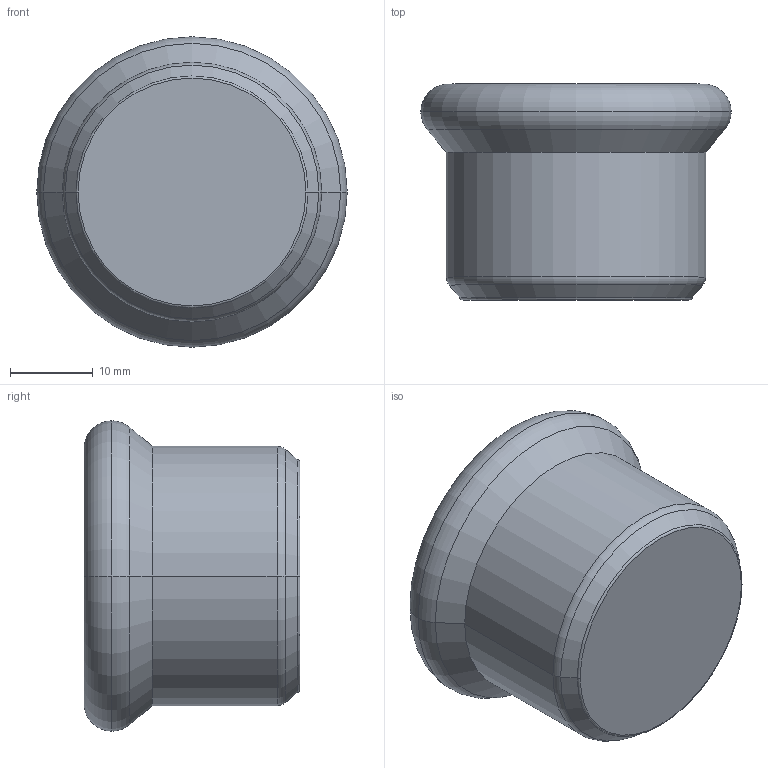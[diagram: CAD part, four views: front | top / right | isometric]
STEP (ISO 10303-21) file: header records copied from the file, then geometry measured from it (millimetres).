
FILE_DESCRIPTION(('OneSpaceDesigner STEP Export'),'2;1');
FILE_NAME('R2729 28.stp','2010-06-10T13:28:32',(''),(''),'OneSpace Designer STEP processor for AP214 (Solid Model)','OneSpace Modeling 15.00A 14-Mar-2007 (C) CoCreate Software GmbH','');
FILE_SCHEMA(('AUTOMOTIVE_DESIGN { 1 0 10303 214 1 1 1 1 }'));
Length unit declared in the file: millimetre
Products named in the file (2): R2729_28
Assembly tree (1 placements, depth 2):
  R2729_28
    R2729_28
Bounding box: 37.45 x 26.05 x 37.45 mm (x, y, z)
Volume: 6057.6 mm3; surface area: 7436.7 mm2
Topology: 1 solids, 1 shells, 61 faces, 147 edges, 94 vertices
Faces by surface type: plane 32, cylinder 17, torus 8, cone 4
Entity records: 1637 total; most frequent: ORIENTED_EDGE 294, CARTESIAN_POINT 263, DIRECTION 251, EDGE_CURVE 147, VERTEX_POINT 94, VECTOR 87, LINE 87, AXIS2_PLACEMENT_3D 82
